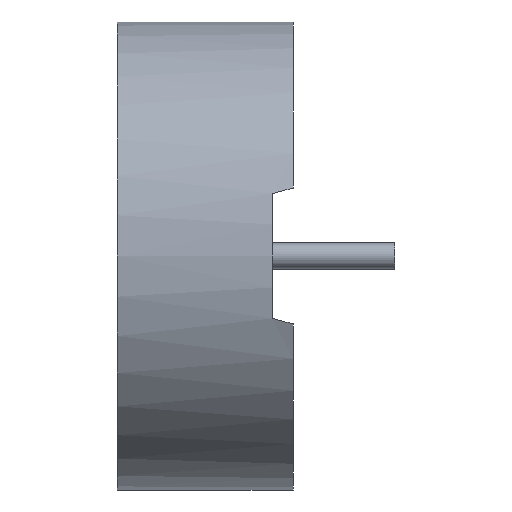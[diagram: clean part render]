
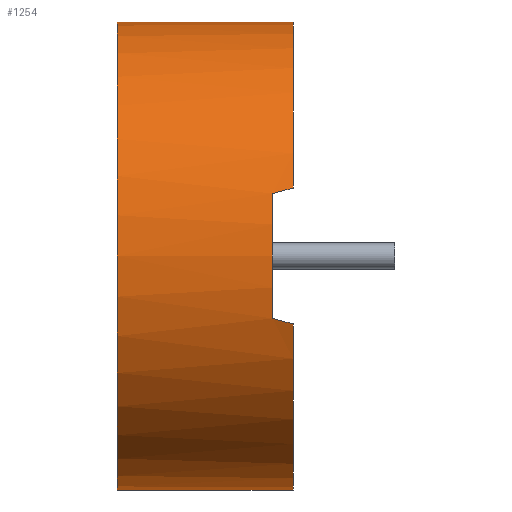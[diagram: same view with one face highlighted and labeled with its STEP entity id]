
A CAD part, left-side view. The second image highlights one B-rep face of the part: STEP entity #1254.
In plain terms, the highlighted cylindrical face has radius 14.287 mm (diameter 28.575 mm), a partial arc.
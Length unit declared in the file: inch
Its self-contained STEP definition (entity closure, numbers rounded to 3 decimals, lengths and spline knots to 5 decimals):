
#19 = EDGE_CURVE ( 'NONE', #404, #771, #571, .T. ) ;
#23 = ORIENTED_EDGE ( 'NONE', *, *, #1210, .T. ) ;
#24 = ORIENTED_EDGE ( 'NONE', *, *, #749, .F. ) ;
#30 = DIRECTION ( 'NONE',  ( 0., 1., 0. ) ) ;
#50 = CARTESIAN_POINT ( 'NONE',  ( -0.53824, 0., -0.1634 ) ) ;
#85 = VERTEX_POINT ( 'NONE', #1037 ) ;
#122 = AXIS2_PLACEMENT_3D ( 'NONE', #1057, #1041, #1026 ) ;
#141 = LINE ( 'NONE', #550, #332 ) ;
#145 = CARTESIAN_POINT ( 'NONE',  ( 0., 0.423, -0.5625 ) ) ;
#148 = ORIENTED_EDGE ( 'NONE', *, *, #694, .T. ) ;
#164 = CARTESIAN_POINT ( 'NONE',  ( 0., 0., 0.5625 ) ) ;
#165 = EDGE_CURVE ( 'NONE', #1087, #615, #727, .T. ) ;
#233 = ORIENTED_EDGE ( 'NONE', *, *, #165, .T. ) ;
#235 = VERTEX_POINT ( 'NONE', #991 ) ;
#270 = CARTESIAN_POINT ( 'NONE',  ( 0., 0.423, 0.5625 ) ) ;
#332 = VECTOR ( 'NONE', #548, 39.37008 ) ;
#350 = CARTESIAN_POINT ( 'NONE',  ( -0.54213, 0.05, -0.15 ) ) ;
#380 = EDGE_CURVE ( 'NONE', #903, #404, #141, .T. ) ;
#404 = VERTEX_POINT ( 'NONE', #543 ) ;
#452 = VECTOR ( 'NONE', #848, 39.37008 ) ;
#479 = DIRECTION ( 'NONE',  ( 0., 0., 1. ) ) ;
#483 = CIRCLE ( 'NONE', #1264, 0.5625 ) ;
#511 = DIRECTION ( 'NONE',  ( 0., -1., 0. ) ) ;
#512 = CARTESIAN_POINT ( 'NONE',  ( 0., 0.423, 0. ) ) ;
#513 = DIRECTION ( 'NONE',  ( 0., 0., 1. ) ) ;
#514 = DIRECTION ( 'NONE',  ( 0., 1., 0. ) ) ;
#515 = CARTESIAN_POINT ( 'NONE',  ( 0., 0., 0. ) ) ;
#518 = DIRECTION ( 'NONE',  ( 0., 0., -1. ) ) ;
#525 = FACE_OUTER_BOUND ( 'NONE', #1167, .T. ) ;
#543 = CARTESIAN_POINT ( 'NONE',  ( 0., 0., -0.5625 ) ) ;
#545 = CARTESIAN_POINT ( 'NONE',  ( 0., 0., 0. ) ) ;
#548 = DIRECTION ( 'NONE',  ( 0., -1., 0. ) ) ;
#550 = CARTESIAN_POINT ( 'NONE',  ( 0., 0.423, -0.5625 ) ) ;
#555 = EDGE_CURVE ( 'NONE', #615, #235, #986, .T. ) ;
#571 = CIRCLE ( 'NONE', #709, 0.5625 ) ;
#572 = DIRECTION ( 'NONE',  ( 0., 1., 0. ) ) ;
#615 = VERTEX_POINT ( 'NONE', #745 ) ;
#649 = CARTESIAN_POINT ( 'NONE',  ( -0.54213, 0.05, 0.15 ) ) ;
#663 = ORIENTED_EDGE ( 'NONE', *, *, #380, .T. ) ;
#671 = DIRECTION ( 'NONE',  ( 0., 0., 1. ) ) ;
#687 = CIRCLE ( 'NONE', #1029, 0.5625 ) ;
#694 = EDGE_CURVE ( 'NONE', #771, #1087, #862, .T. ) ;
#709 = AXIS2_PLACEMENT_3D ( 'NONE', #545, #572, #479 ) ;
#727 = CIRCLE ( 'NONE', #122, 0.5625 ) ;
#740 = CARTESIAN_POINT ( 'NONE',  ( -0.5396, 0.01661, -0.15895 ) ) ;
#743 = CARTESIAN_POINT ( 'NONE',  ( -0.53824, 0., -0.1634 ) ) ;
#745 = CARTESIAN_POINT ( 'NONE',  ( -0.54213, 0.05, 0.15 ) ) ;
#749 = EDGE_CURVE ( 'NONE', #903, #85, #483, .T. ) ;
#768 = ORIENTED_EDGE ( 'NONE', *, *, #19, .T. ) ;
#771 = VERTEX_POINT ( 'NONE', #50 ) ;
#848 = DIRECTION ( 'NONE',  ( 0., -1., 0. ) ) ;
#862 =( BOUNDED_CURVE ( )  B_SPLINE_CURVE ( 3, ( #743, #740, #908, #910 ),
 .UNSPECIFIED., .F., .T. ) 
 B_SPLINE_CURVE_WITH_KNOTS ( ( 4, 4 ),
 ( 1.27606, 1.30086 ),
 .UNSPECIFIED. ) 
 CURVE ( )  GEOMETRIC_REPRESENTATION_ITEM ( )  RATIONAL_B_SPLINE_CURVE ( ( 1., 1., 1., 1. ) ) 
 REPRESENTATION_ITEM ( '' )  );
#903 = VERTEX_POINT ( 'NONE', #145 ) ;
#908 = CARTESIAN_POINT ( 'NONE',  ( -0.54089, 0.03327, -0.15448 ) ) ;
#910 = CARTESIAN_POINT ( 'NONE',  ( -0.54213, 0.05, -0.15 ) ) ;
#917 = CARTESIAN_POINT ( 'NONE',  ( -0.53824, 0., 0.1634 ) ) ;
#925 = CARTESIAN_POINT ( 'NONE',  ( -0.5396, 0.01661, 0.15895 ) ) ;
#935 = VERTEX_POINT ( 'NONE', #164 ) ;
#970 = ORIENTED_EDGE ( 'NONE', *, *, #555, .T. ) ;
#972 = ORIENTED_EDGE ( 'NONE', *, *, #1005, .F. ) ;
#976 = CARTESIAN_POINT ( 'NONE',  ( 0., 0.423, 0. ) ) ;
#985 = LINE ( 'NONE', #270, #452 ) ;
#986 =( BOUNDED_CURVE ( )  B_SPLINE_CURVE ( 3, ( #649, #1265, #925, #917 ),
 .UNSPECIFIED., .F., .T. ) 
 B_SPLINE_CURVE_WITH_KNOTS ( ( 4, 4 ),
 ( 4.98232, 5.00713 ),
 .UNSPECIFIED. ) 
 CURVE ( )  GEOMETRIC_REPRESENTATION_ITEM ( )  RATIONAL_B_SPLINE_CURVE ( ( 1., 1., 1., 1. ) ) 
 REPRESENTATION_ITEM ( '' )  );
#991 = CARTESIAN_POINT ( 'NONE',  ( -0.53824, 0., 0.1634 ) ) ;
#1005 = EDGE_CURVE ( 'NONE', #85, #935, #985, .T. ) ;
#1026 = DIRECTION ( 'NONE',  ( 0., 0., 1. ) ) ;
#1029 = AXIS2_PLACEMENT_3D ( 'NONE', #515, #514, #513 ) ;
#1037 = CARTESIAN_POINT ( 'NONE',  ( 0., 0.423, 0.5625 ) ) ;
#1041 = DIRECTION ( 'NONE',  ( 0., 1., 0. ) ) ;
#1057 = CARTESIAN_POINT ( 'NONE',  ( 0., 0.05, 0. ) ) ;
#1087 = VERTEX_POINT ( 'NONE', #350 ) ;
#1167 = EDGE_LOOP ( 'NONE', ( #972, #24, #663, #768, #148, #233, #970, #23 ) ) ;
#1210 = EDGE_CURVE ( 'NONE', #235, #935, #687, .T. ) ;
#1211 = AXIS2_PLACEMENT_3D ( 'NONE', #512, #511, #518 ) ;
#1244 = CYLINDRICAL_SURFACE ( 'NONE', #1211, 0.5625 ) ;
#1254 = ADVANCED_FACE ( 'NONE', ( #525 ), #1244, .T. ) ;
#1264 = AXIS2_PLACEMENT_3D ( 'NONE', #976, #30, #671 ) ;
#1265 = CARTESIAN_POINT ( 'NONE',  ( -0.54089, 0.03327, 0.15448 ) ) ;
